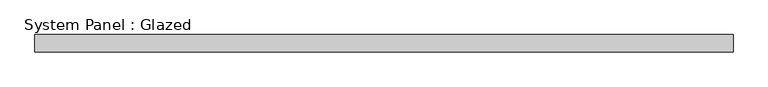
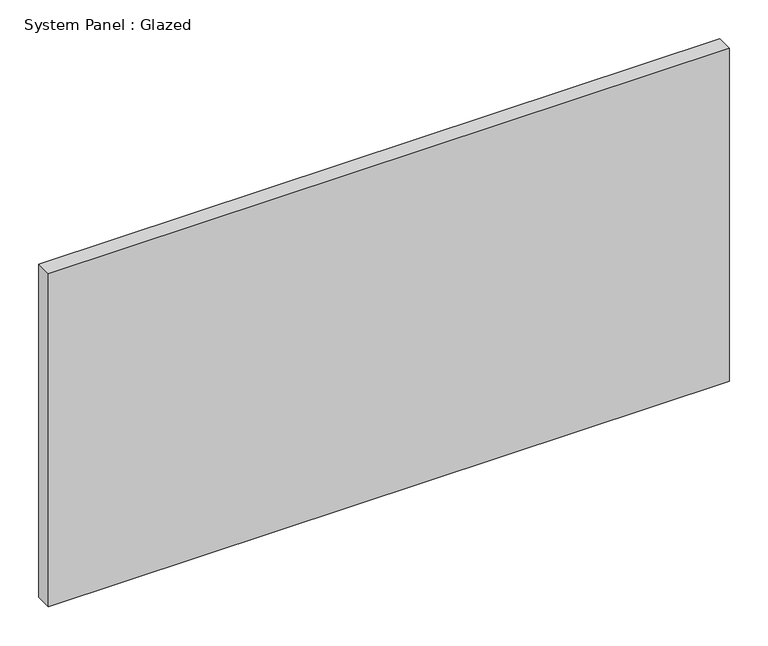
"""IFC4 building model written with IfcOpenShell, lengths in millimetres: plate geometry, System Panel : Glazed."""

from ifc_helpers import new_model, si_unit, origin, origin_with_axes, place, context, project, spatial, polyline, outline, extrude, source, transform, mapped, element, save


def system_panel_glazed_8358c7e7(model_context):
    return source(origin(), model_context, "Body", "SweptSolid", [
        extrude(outline(polyline([(507.5, -12.5), (-507.5, -12.5), (-507.5, 12.5), (507.5, 12.5), (507.5, -12.5)])), origin_with_axes(), (0.0, 0.0, 1.0), 525.0),
    ])


if __name__ == "__main__":
    model = new_model("IFC4")
    model_context = context("Model", 3, world=origin())
    ifc_project = project(units=[si_unit("LENGTHUNIT", "METRE", prefix="MILLI")], contexts=[model_context])
    site = spatial("IfcSite", under=ifc_project)
    building = spatial("IfcBuilding", under=site)
    placement = place(None, origin())
    system_panel_glazed_shape = system_panel_glazed_8358c7e7(model_context)
    element("IfcPlate", 1, ObjectType="System Panel : Glazed", at=placement, inside=building, context=model_context, shape_type="MappedRepresentation", body=[
        mapped(system_panel_glazed_shape, transform((0.0, 0.0, 0.0), x_axis=(1.0, 0.0, 0.0), y_axis=(0.0, 1.0, 0.0), z_axis=(0.0, 0.0, 1.0))),
    ])
    save(model, "model.ifc")
